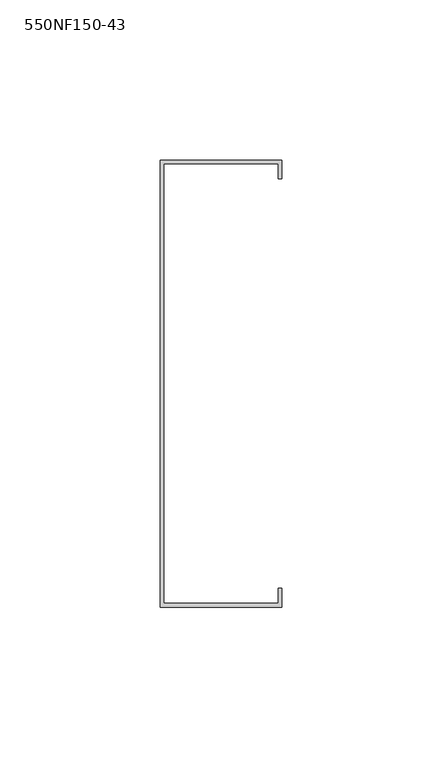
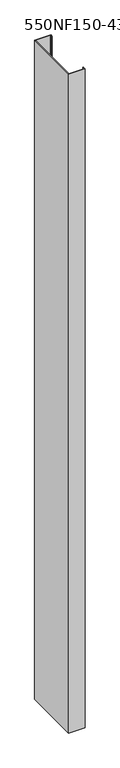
"""IFC4 building model written with IfcOpenShell, lengths in millimetres: column geometry, BIMSF-SSMA-S-Column : 550NF150-43."""

from ifc_helpers import new_model, si_unit, frame, origin, place, context, project, spatial, polyline, outline, extrude, source, transform, mapped, element, save


def column_550nf150_43_42e9d910(model_context):
    return source(origin(), model_context, "Body", "SweptSolid", [
        extrude(outline(polyline([(-11.9977877, -80.5871249), (-11.9977877, 59.1128751), (26.1022123, 59.1128751), (26.1022123, 53.1879908), (24.952528, 53.1879908), (24.952528, 57.9631908), (-10.8481035, 57.9631908), (-10.8481035, -79.4374407), (24.952528, -79.4374407), (24.952528, -74.6622407), (26.1022123, -74.6622407), (26.1022123, -80.5871249), (-11.9977877, -80.5871249)])), frame((0.0, 0.0, 5525.3929688), z_axis=(0.0, 0.0, 1.0), x_axis=(1.0, 0.0, 0.0)), (0.0, 0.0, 1.0), 1648.4332427),
    ])


if __name__ == "__main__":
    model = new_model("IFC4")
    model_context = context("Model", 3, world=origin())
    ifc_project = project(units=[si_unit("LENGTHUNIT", "METRE", prefix="MILLI")], contexts=[model_context])
    site = spatial("IfcSite", under=ifc_project)
    building = spatial("IfcBuilding", under=site)
    placement = place(None, origin())
    column_550nf150_43_shape = column_550nf150_43_42e9d910(model_context)
    element("IfcColumn", 1, ObjectType="BIMSF-SSMA-S-Column : 550NF150-43", at=placement, inside=building, context=model_context, shape_type="MappedRepresentation", body=[
        mapped(column_550nf150_43_shape, transform((0.0, 0.0, 0.0), x_axis=(1.0, 0.0, 0.0), y_axis=(0.0, 1.0, 0.0), z_axis=(0.0, 0.0, 1.0))),
    ])
    save(model, "model.ifc")
